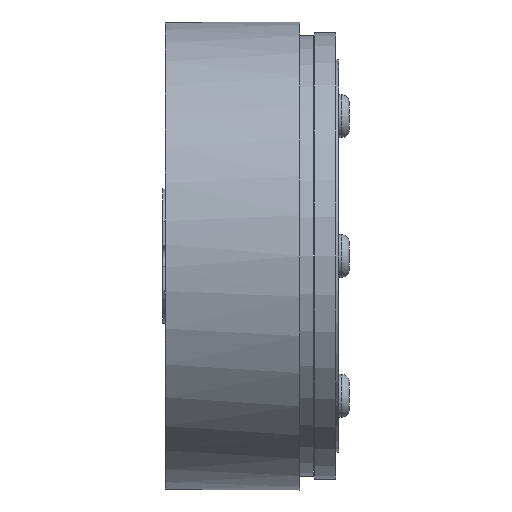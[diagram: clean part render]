
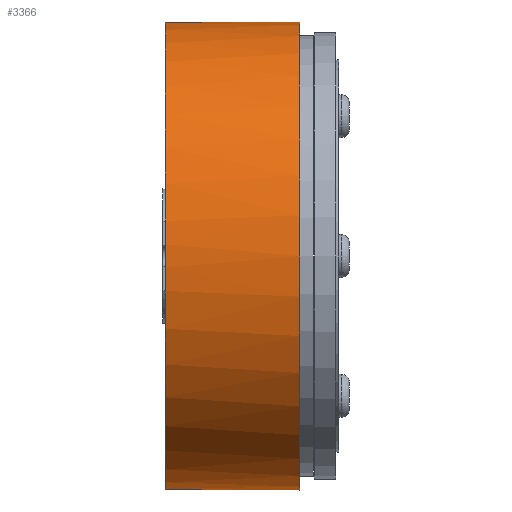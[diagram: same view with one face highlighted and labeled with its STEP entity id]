
A CAD part, front view. The second image highlights one B-rep face of the part: STEP entity #3366.
In plain terms, the highlighted cylindrical face has radius 43.5 mm (diameter 87 mm), a full revolution.
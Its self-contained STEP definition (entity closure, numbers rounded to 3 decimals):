
#126=FACE_BOUND('',#899,.T.);
#127=FACE_BOUND('',#900,.T.);
#177=LINE('',#4900,#284);
#178=LINE('',#4902,#285);
#284=VECTOR('',#3865,0.5);
#285=VECTOR('',#3866,0.5);
#630=FACE_OUTER_BOUND('',#898,.T.);
#898=EDGE_LOOP('',(#2823,#2824));
#899=EDGE_LOOP('',(#2825,#2826,#2827,#2828,#2829,#2830));
#900=EDGE_LOOP('',(#2831));
#1174=CIRCLE('',#3746,43.5);
#1175=CIRCLE('',#3748,43.5);
#1187=CIRCLE('',#3773,43.5);
#1229=B_SPLINE_CURVE_WITH_KNOTS('',3,(#4856,#4857,#4858,#4859,#4860,#4861,
#4862,#4863,#4864,#4865,#4866,#4867,#4868,#4869,#4870,#4871,#4872,#4873),
 .UNSPECIFIED.,.F.,.F.,(4,2,2,2,2,2,2,2,4),(0.452,0.565,
0.678,0.791,0.904,1.017,1.13,
1.243,1.357),.UNSPECIFIED.);
#1230=B_SPLINE_CURVE_WITH_KNOTS('',3,(#4878,#4879,#4880,#4881,#4882,#4883,
#4884,#4885,#4886,#4887,#4888,#4889,#4890,#4891,#4892,#4893,#4894,#4895,
#4896),.UNSPECIFIED.,.F.,.F.,(4,2,2,2,3,2,2,2,4),(1.357,1.47,
1.583,1.696,1.809,1.922,2.035,
2.148,2.261),.UNSPECIFIED.);
#1306=VERTEX_POINT('',#4854);
#1307=VERTEX_POINT('',#4855);
#1309=VERTEX_POINT('',#4899);
#1310=VERTEX_POINT('',#4901);
#1557=VERTEX_POINT('',#6763);
#1562=VERTEX_POINT('',#6777);
#1563=VERTEX_POINT('',#6785);
#1614=EDGE_CURVE('',#1306,#1307,#1229,.T.);
#1617=EDGE_CURVE('',#1307,#1306,#1230,.T.);
#1619=EDGE_CURVE('',#1309,#1306,#177,.T.);
#1620=EDGE_CURVE('',#1307,#1310,#178,.T.);
#1989=EDGE_CURVE('',#1562,#1557,#1174,.T.);
#1990=EDGE_CURVE('',#1563,#1563,#1175,.T.);
#2002=EDGE_CURVE('',#1557,#1562,#1187,.T.);
#2823=ORIENTED_EDGE('',*,*,#2002,.T.);
#2824=ORIENTED_EDGE('',*,*,#1989,.T.);
#2825=ORIENTED_EDGE('',*,*,#1614,.T.);
#2826=ORIENTED_EDGE('',*,*,#1620,.T.);
#2827=ORIENTED_EDGE('',*,*,#1620,.F.);
#2828=ORIENTED_EDGE('',*,*,#1617,.T.);
#2829=ORIENTED_EDGE('',*,*,#1619,.F.);
#2830=ORIENTED_EDGE('',*,*,#1619,.T.);
#2831=ORIENTED_EDGE('',*,*,#1990,.F.);
#2979=CYLINDRICAL_SURFACE('',#3774,43.5);
#3366=ADVANCED_FACE('',(#630,#126,#127),#2979,.T.);
#3746=AXIS2_PLACEMENT_3D('',#6783,#4642,#4643);
#3748=AXIS2_PLACEMENT_3D('',#6786,#4646,#4647);
#3773=AXIS2_PLACEMENT_3D('',#6820,#4696,#4697);
#3774=AXIS2_PLACEMENT_3D('',#6821,#4698,#4699);
#3865=DIRECTION('',(1.,0.,0.));
#3866=DIRECTION('',(1.,0.,0.));
#4642=DIRECTION('center_axis',(1.,0.,0.));
#4643=DIRECTION('ref_axis',(0.,0.,-1.));
#4646=DIRECTION('center_axis',(1.,0.,0.));
#4647=DIRECTION('ref_axis',(0.,0.,-1.));
#4696=DIRECTION('center_axis',(1.,0.,0.));
#4697=DIRECTION('ref_axis',(0.,0.,-1.));
#4698=DIRECTION('center_axis',(1.,0.,0.));
#4699=DIRECTION('ref_axis',(0.,1.,0.));
#4854=CARTESIAN_POINT('',(-9.5,43.5,0.));
#4855=CARTESIAN_POINT('',(-3.5,43.5,0.));
#4856=CARTESIAN_POINT('Ctrl Pts',(-9.5,43.5,0.));
#4857=CARTESIAN_POINT('Ctrl Pts',(-9.5,43.5,-0.377));
#4858=CARTESIAN_POINT('Ctrl Pts',(-9.425,43.495,-0.779));
#4859=CARTESIAN_POINT('Ctrl Pts',(-9.118,43.475,-1.518));
#4860=CARTESIAN_POINT('Ctrl Pts',(-8.888,43.461,-1.855));
#4861=CARTESIAN_POINT('Ctrl Pts',(-8.355,43.435,-2.388));
#4862=CARTESIAN_POINT('Ctrl Pts',(-8.018,43.421,-2.618));
#4863=CARTESIAN_POINT('Ctrl Pts',(-7.279,43.402,-2.925));
#4864=CARTESIAN_POINT('Ctrl Pts',(-6.877,43.396,-3.));
#4865=CARTESIAN_POINT('Ctrl Pts',(-6.123,43.396,-3.));
#4866=CARTESIAN_POINT('Ctrl Pts',(-5.721,43.402,-2.925));
#4867=CARTESIAN_POINT('Ctrl Pts',(-4.982,43.421,-2.618));
#4868=CARTESIAN_POINT('Ctrl Pts',(-4.645,43.435,-2.388));
#4869=CARTESIAN_POINT('Ctrl Pts',(-4.112,43.461,-1.855));
#4870=CARTESIAN_POINT('Ctrl Pts',(-3.882,43.475,-1.518));
#4871=CARTESIAN_POINT('Ctrl Pts',(-3.575,43.495,-0.779));
#4872=CARTESIAN_POINT('Ctrl Pts',(-3.5,43.5,-0.377));
#4873=CARTESIAN_POINT('Ctrl Pts',(-3.5,43.5,0.));
#4878=CARTESIAN_POINT('Ctrl Pts',(-3.5,43.5,0.));
#4879=CARTESIAN_POINT('Ctrl Pts',(-3.5,43.5,0.377));
#4880=CARTESIAN_POINT('Ctrl Pts',(-3.575,43.495,0.779));
#4881=CARTESIAN_POINT('Ctrl Pts',(-3.882,43.475,1.518));
#4882=CARTESIAN_POINT('Ctrl Pts',(-4.112,43.461,1.855));
#4883=CARTESIAN_POINT('Ctrl Pts',(-4.645,43.435,2.388));
#4884=CARTESIAN_POINT('Ctrl Pts',(-4.982,43.421,2.618));
#4885=CARTESIAN_POINT('Ctrl Pts',(-5.721,43.402,2.925));
#4886=CARTESIAN_POINT('Ctrl Pts',(-6.123,43.396,3.));
#4887=CARTESIAN_POINT('Ctrl Pts',(-6.5,43.396,3.));
#4888=CARTESIAN_POINT('Ctrl Pts',(-6.877,43.396,3.));
#4889=CARTESIAN_POINT('Ctrl Pts',(-7.279,43.402,2.925));
#4890=CARTESIAN_POINT('Ctrl Pts',(-8.018,43.421,2.618));
#4891=CARTESIAN_POINT('Ctrl Pts',(-8.355,43.435,2.388));
#4892=CARTESIAN_POINT('Ctrl Pts',(-8.888,43.461,1.855));
#4893=CARTESIAN_POINT('Ctrl Pts',(-9.118,43.475,1.518));
#4894=CARTESIAN_POINT('Ctrl Pts',(-9.425,43.495,0.779));
#4895=CARTESIAN_POINT('Ctrl Pts',(-9.5,43.5,0.377));
#4896=CARTESIAN_POINT('Ctrl Pts',(-9.5,43.5,0.));
#4899=CARTESIAN_POINT('',(-10.,43.5,0.));
#4900=CARTESIAN_POINT('',(0.,43.5,0.));
#4901=CARTESIAN_POINT('',(-3.,43.5,0.));
#4902=CARTESIAN_POINT('',(0.,43.5,0.));
#6763=CARTESIAN_POINT('',(-12.5,-43.012,-6.5));
#6777=CARTESIAN_POINT('',(-12.5,-43.012,6.5));
#6783=CARTESIAN_POINT('Origin',(-12.5,0.,0.));
#6785=CARTESIAN_POINT('',(12.5,43.5,0.));
#6786=CARTESIAN_POINT('Origin',(12.5,0.,0.));
#6820=CARTESIAN_POINT('Origin',(-12.5,0.,0.));
#6821=CARTESIAN_POINT('Origin',(0.,0.,0.));
